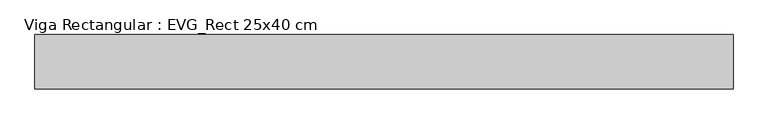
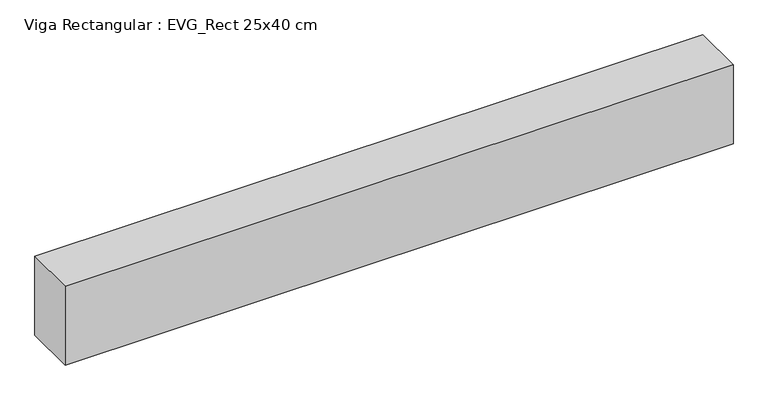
"""IFC4 building model written with IfcOpenShell, lengths in millimetres: beam geometry, Viga Rectangular : EVG_Rect 25x40 cm."""

from ifc_helpers import new_model, si_unit, frame, origin, place, context, project, spatial, polyline, outline, extrude, source, transform, mapped, element, save


def viga_rectangular_evg_rect_25x40_cm_fbb3c78d(model_context):
    return source(origin(), model_context, "Body", "SweptSolid", [
        extrude(outline(polyline([(1537.5, 125.0), (1537.5, -125.0), (-1662.5, -125.0), (-1662.5, 125.0), (1537.5, 125.0)])), frame((0.0, 0.0, -400.0), z_axis=(0.0, 0.0, 1.0), x_axis=(1.0, 0.0, 0.0)), (0.0, 0.0, 1.0), 400.0),
    ])


if __name__ == "__main__":
    model = new_model("IFC4")
    model_context = context("Model", 3, world=origin())
    ifc_project = project(units=[si_unit("LENGTHUNIT", "METRE", prefix="MILLI")], contexts=[model_context])
    site = spatial("IfcSite", under=ifc_project)
    building = spatial("IfcBuilding", under=site)
    placement = place(None, origin())
    viga_rectangular_evg_rect_25x40_cm_shape = viga_rectangular_evg_rect_25x40_cm_fbb3c78d(model_context)
    element("IfcBeam", 1, ObjectType="Viga Rectangular : EVG_Rect 25x40 cm", at=placement, inside=building, context=model_context, shape_type="MappedRepresentation", body=[
        mapped(viga_rectangular_evg_rect_25x40_cm_shape, transform((0.0, 0.0, 0.0), x_axis=(1.0, 0.0, 0.0), y_axis=(0.0, 1.0, 0.0), z_axis=(0.0, 0.0, 1.0))),
    ])
    save(model, "model.ifc")
